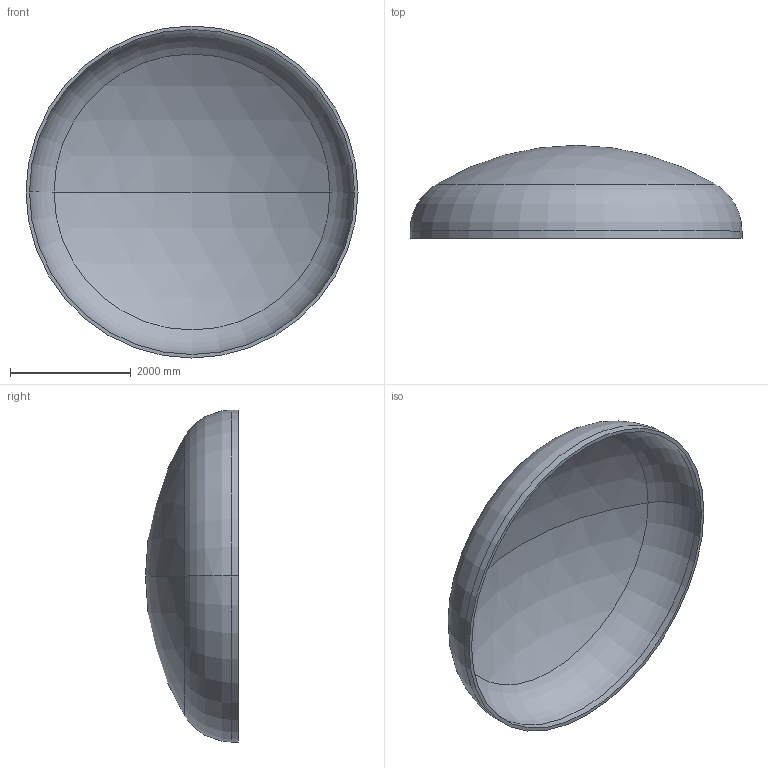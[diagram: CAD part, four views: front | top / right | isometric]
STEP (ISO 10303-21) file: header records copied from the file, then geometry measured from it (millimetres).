
FILE_DESCRIPTION (( 'STEP AP203' ), '1' );
FILE_NAME ('DIN 28013 Korbbogenform_-_Boden DIN 28013 - 5500 x 120 - I - s=58.step', '2016-07-04T10:34:30', ( '' ), ( '' ), 'SwSTEP 2.0', 'SolidWorks 2013', '' );
FILE_SCHEMA (( 'CONFIG_CONTROL_DESIGN' ));
Length unit declared in the file: millimetre
Products named in the file (1): DIN 28013 Korbbogenform_-_Boden DIN 28013 - 5500 x 120 - I - s=58
Bounding box: 5500 x 1540.47 x 5500 mm (x, y, z)
Volume: 2000172918.2 mm3; surface area: 69970099.1 mm2
Topology: 1 solids, 1 shells, 13 faces, 24 edges, 14 vertices
Faces by surface type: torus 4, cylinder 4, sphere 4, plane 1
Entity records: 407 total; most frequent: DIRECTION 72, CARTESIAN_POINT 52, ORIENTED_EDGE 48, AXIS2_PLACEMENT_3D 34, EDGE_CURVE 24, CIRCLE 20, VERTEX_POINT 14, EDGE_LOOP 14
